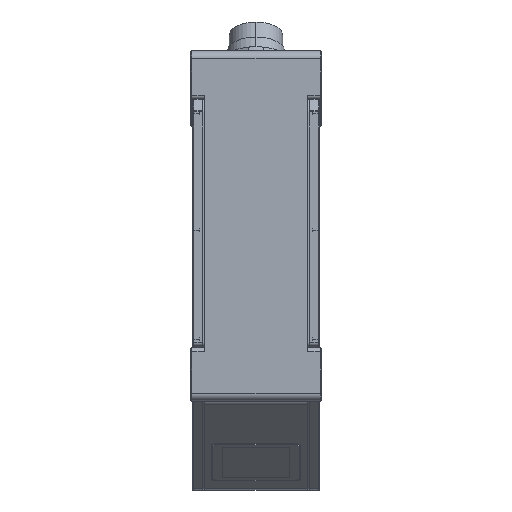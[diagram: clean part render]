
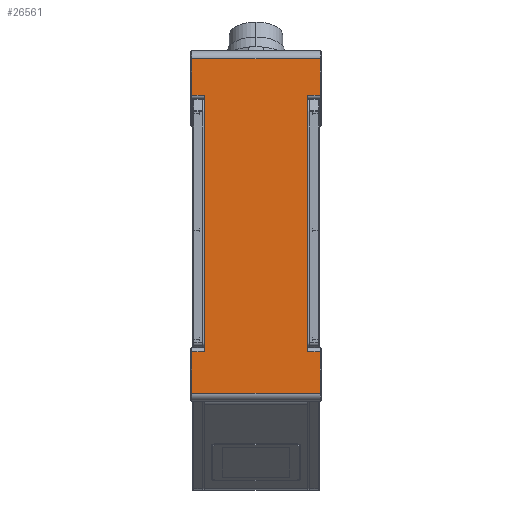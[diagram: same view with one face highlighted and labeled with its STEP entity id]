
A CAD part, top view. The second image highlights one B-rep face of the part: STEP entity #26561.
In plain terms, the highlighted planar face has unit normal (0, 0, 1).
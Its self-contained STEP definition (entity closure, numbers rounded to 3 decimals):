
#986=DIRECTION('',(0.,1.,0.));
#987=VECTOR('',#986,65.004);
#988=CARTESIAN_POINT('',(-13.1,3.664,10.));
#989=LINE('',#988,#987);
#2749=DIRECTION('',(-1.,0.,0.));
#2750=VECTOR('',#2749,32.6);
#2751=CARTESIAN_POINT('',(16.3,-6.8,10.));
#2752=LINE('',#2751,#2750);
#2757=DIRECTION('',(0.,1.,0.));
#2758=VECTOR('',#2757,65.004);
#2759=CARTESIAN_POINT('',(13.1,3.664,10.));
#2760=LINE('',#2759,#2758);
#2765=DIRECTION('',(1.,0.,0.));
#2766=VECTOR('',#2765,32.6);
#2767=CARTESIAN_POINT('',(-16.3,77.95,10.));
#2768=LINE('',#2767,#2766);
#2781=DIRECTION('',(-1.,0.,0.));
#2782=VECTOR('',#2781,3.2);
#2783=CARTESIAN_POINT('',(-13.1,68.668,10.));
#2784=LINE('',#2783,#2782);
#2853=DIRECTION('',(0.,1.,0.));
#2854=VECTOR('',#2853,9.282);
#2855=CARTESIAN_POINT('',(-16.3,68.668,10.));
#2856=LINE('',#2855,#2854);
#3037=DIRECTION('',(-1.,0.,0.));
#3038=VECTOR('',#3037,3.2);
#3039=CARTESIAN_POINT('',(16.3,68.668,10.));
#3040=LINE('',#3039,#3038);
#3252=DIRECTION('',(1.,0.,0.));
#3253=VECTOR('',#3252,3.2);
#3254=CARTESIAN_POINT('',(13.1,3.664,10.));
#3255=LINE('',#3254,#3253);
#3324=DIRECTION('',(0.,-1.,0.));
#3325=VECTOR('',#3324,10.464);
#3326=CARTESIAN_POINT('',(16.3,3.664,10.));
#3327=LINE('',#3326,#3325);
#3559=DIRECTION('',(1.,0.,0.));
#3560=VECTOR('',#3559,3.2);
#3561=CARTESIAN_POINT('',(-16.3,3.664,10.));
#3562=LINE('',#3561,#3560);
#3572=DIRECTION('',(0.,1.,0.));
#3573=VECTOR('',#3572,10.464);
#3574=CARTESIAN_POINT('',(-16.3,-6.8,10.));
#3575=LINE('',#3574,#3573);
#11413=DIRECTION('',(0.,-1.,0.));
#11414=VECTOR('',#11413,9.282);
#11415=CARTESIAN_POINT('',(16.3,77.95,10.));
#11416=LINE('',#11415,#11414);
#20424=CARTESIAN_POINT('',(16.3,3.664,10.));
#20426=VERTEX_POINT('',#20424);
#20490=CARTESIAN_POINT('',(16.3,-6.8,10.));
#20491=VERTEX_POINT('',#20490);
#20665=CARTESIAN_POINT('',(-16.3,3.664,10.));
#20666=CARTESIAN_POINT('',(-13.1,3.664,10.));
#20667=VERTEX_POINT('',#20665);
#20668=VERTEX_POINT('',#20666);
#20885=CARTESIAN_POINT('',(16.3,77.95,10.));
#20886=VERTEX_POINT('',#20885);
#20985=CARTESIAN_POINT('',(-16.3,77.95,10.));
#20987=VERTEX_POINT('',#20985);
#21065=CARTESIAN_POINT('',(13.1,3.664,10.));
#21067=VERTEX_POINT('',#21065);
#21302=CARTESIAN_POINT('',(16.3,68.668,10.));
#21303=CARTESIAN_POINT('',(13.1,68.668,10.));
#21304=VERTEX_POINT('',#21302);
#21305=VERTEX_POINT('',#21303);
#21828=CARTESIAN_POINT('',(-16.3,68.668,10.));
#21829=VERTEX_POINT('',#21828);
#22342=CARTESIAN_POINT('',(-13.1,68.668,10.));
#22343=VERTEX_POINT('',#22342);
#22344=CARTESIAN_POINT('',(-16.3,-6.8,10.));
#22345=VERTEX_POINT('',#22344);
#26532=CARTESIAN_POINT('',(16.5,-6.8,10.));
#26533=DIRECTION('',(0.,0.,-1.));
#26534=DIRECTION('',(0.,1.,0.));
#26535=AXIS2_PLACEMENT_3D('',#26532,#26533,#26534);
#26536=PLANE('',#26535);
#26538=ORIENTED_EDGE('',*,*,#26537,.T.);
#26540=ORIENTED_EDGE('',*,*,#26539,.T.);
#26542=ORIENTED_EDGE('',*,*,#26541,.T.);
#26544=ORIENTED_EDGE('',*,*,#26543,.F.);
#26546=ORIENTED_EDGE('',*,*,#26545,.T.);
#26548=ORIENTED_EDGE('',*,*,#26547,.T.);
#26549=ORIENTED_EDGE('',*,*,#26522,.T.);
#26551=ORIENTED_EDGE('',*,*,#26550,.T.);
#26553=ORIENTED_EDGE('',*,*,#26552,.T.);
#26554=ORIENTED_EDGE('',*,*,#25811,.T.);
#26556=ORIENTED_EDGE('',*,*,#26555,.T.);
#26558=ORIENTED_EDGE('',*,*,#26557,.T.);
#26559=EDGE_LOOP('',(#26538,#26540,#26542,#26544,#26546,#26548,#26549,#26551,
#26553,#26554,#26556,#26558));
#26560=FACE_OUTER_BOUND('',#26559,.F.);
#25811=EDGE_CURVE('',#20668,#22343,#989,.T.);
#26522=EDGE_CURVE('',#20491,#22345,#2752,.T.);
#26537=EDGE_CURVE('',#20987,#20886,#2768,.T.);
#26539=EDGE_CURVE('',#20886,#21304,#11416,.T.);
#26541=EDGE_CURVE('',#21304,#21305,#3040,.T.);
#26543=EDGE_CURVE('',#21067,#21305,#2760,.T.);
#26545=EDGE_CURVE('',#21067,#20426,#3255,.T.);
#26547=EDGE_CURVE('',#20426,#20491,#3327,.T.);
#26550=EDGE_CURVE('',#22345,#20667,#3575,.T.);
#26552=EDGE_CURVE('',#20667,#20668,#3562,.T.);
#26555=EDGE_CURVE('',#22343,#21829,#2784,.T.);
#26557=EDGE_CURVE('',#21829,#20987,#2856,.T.);
#26561=ADVANCED_FACE('',(#26560),#26536,.F.);
